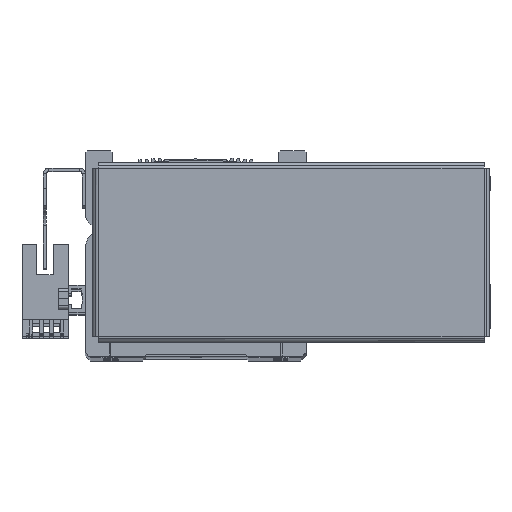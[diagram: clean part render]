
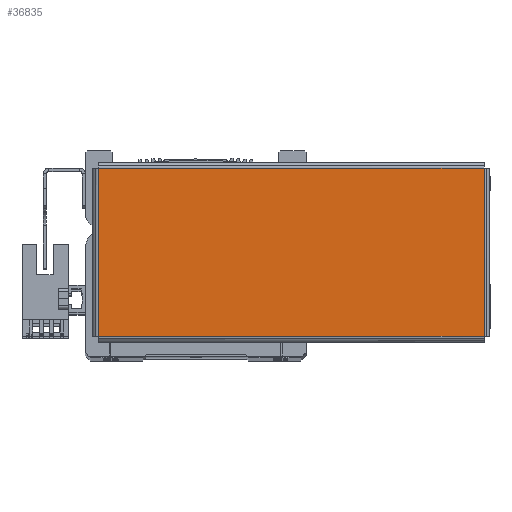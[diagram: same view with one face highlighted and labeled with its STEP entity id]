
A CAD part, top view. The second image highlights one B-rep face of the part: STEP entity #36835.
In plain terms, the highlighted planar face has unit normal (0, 0, 1) as drawn and (0, 0, -1) by its records, which use the part's own axes.
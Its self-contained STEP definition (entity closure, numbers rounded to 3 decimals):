
#6941 = EDGE_LOOP ( 'NONE', ( #38550, #38549, #38534, #38551 ) ) ;
#15319 = VERTEX_POINT ( 'NONE', #18124 ) ;
#15366 = VERTEX_POINT ( 'NONE', #18170 ) ;
#15373 = VERTEX_POINT ( 'NONE', #18179 ) ;
#15375 = VERTEX_POINT ( 'NONE', #18196 ) ;
#15848 = LINE ( 'NONE', #18616, #15878 ) ;
#15878 = VECTOR ( 'NONE', #18637, 1000. ) ;
#15888 = LINE ( 'NONE', #18747, #15927 ) ;
#15899 = LINE ( 'NONE', #18807, #15903 ) ;
#15903 = VECTOR ( 'NONE', #18752, 1000. ) ;
#15904 = VECTOR ( 'NONE', #18756, 1000. ) ;
#15927 = VECTOR ( 'NONE', #18767, 1000. ) ;
#15935 = LINE ( 'NONE', #18772, #15904 ) ;
#18124 = CARTESIAN_POINT ( 'NONE',  ( 56.863, 24.763, -1. ) ) ;
#18170 = CARTESIAN_POINT ( 'NONE',  ( -56.863, -24.763, -1. ) ) ;
#18179 = CARTESIAN_POINT ( 'NONE',  ( -56.863, 24.763, -1. ) ) ;
#18196 = CARTESIAN_POINT ( 'NONE',  ( 56.863, -24.763, -1. ) ) ;
#18616 = CARTESIAN_POINT ( 'NONE',  ( 56.893, -24.763, -1. ) ) ;
#18637 = DIRECTION ( 'NONE',  ( -1., 0., 0. ) ) ;
#18747 = CARTESIAN_POINT ( 'NONE',  ( -56.863, -24.793, -1. ) ) ;
#18752 = DIRECTION ( 'NONE',  ( 0., -1., 0. ) ) ;
#18756 = DIRECTION ( 'NONE',  ( 1., 0., 0. ) ) ;
#18767 = DIRECTION ( 'NONE',  ( 0., 1., 0. ) ) ;
#18772 = CARTESIAN_POINT ( 'NONE',  ( -56.893, 24.763, -1. ) ) ;
#18807 = CARTESIAN_POINT ( 'NONE',  ( 56.863, 24.793, -1. ) ) ;
#25236 = CARTESIAN_POINT ( 'NONE',  ( 0., 0., -1. ) ) ;
#25237 = DIRECTION ( 'NONE',  ( 1., 0., 0. ) ) ;
#25242 = DIRECTION ( 'NONE',  ( 0., 0., 1. ) ) ;
#25253 = PLANE ( 'NONE',  #31312 ) ;
#26116 = EDGE_CURVE ( 'NONE', #15375, #15366, #15848, .T. ) ;
#26213 = EDGE_CURVE ( 'NONE', #15366, #15373, #15888, .T. ) ;
#26220 = EDGE_CURVE ( 'NONE', #15319, #15375, #15899, .T. ) ;
#26223 = EDGE_CURVE ( 'NONE', #15373, #15319, #15935, .T. ) ;
#29151 = FACE_OUTER_BOUND ( 'NONE', #6941, .T. ) ;
#31312 = AXIS2_PLACEMENT_3D ( 'NONE', #25236, #25242, #25237 ) ;
#36835 = ADVANCED_FACE ( 'NONE', ( #29151 ), #25253, .F. ) ;
#38534 = ORIENTED_EDGE ( 'NONE', *, *, #26213, .T. ) ;
#38549 = ORIENTED_EDGE ( 'NONE', *, *, #26116, .T. ) ;
#38550 = ORIENTED_EDGE ( 'NONE', *, *, #26220, .T. ) ;
#38551 = ORIENTED_EDGE ( 'NONE', *, *, #26223, .T. ) ;
